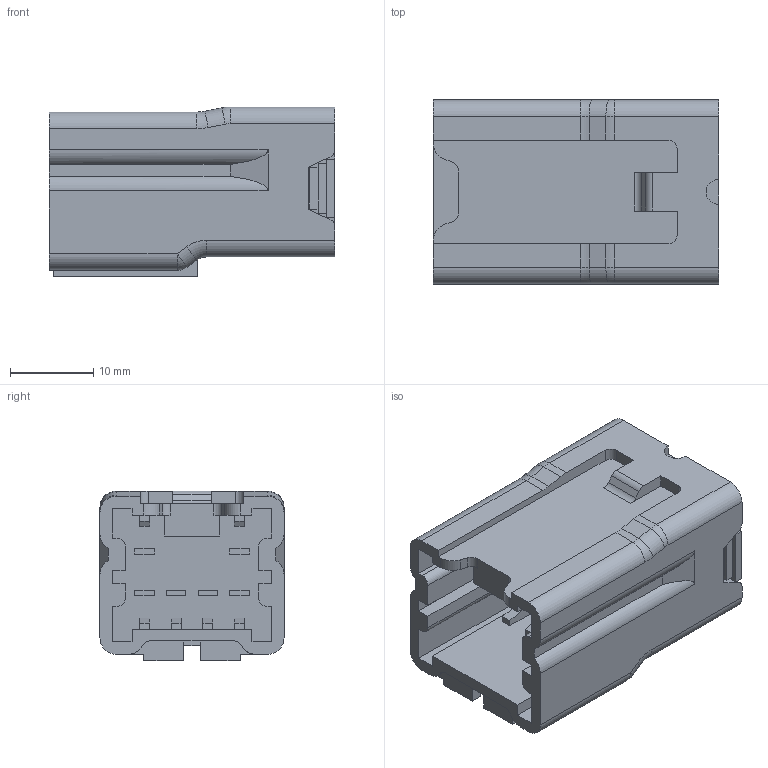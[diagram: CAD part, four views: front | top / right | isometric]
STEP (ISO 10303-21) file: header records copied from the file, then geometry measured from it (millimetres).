
FILE_DESCRIPTION(('CATIA V5 STEP Exchange'),'2;1');
FILE_NAME('N:\C-DAM_MyDesk\ENV\11093U\6098-1007.stp','2013-02-14T01:11:27+00:00',('none'),('none'),'CATIA Version 5 Release 20 SP 4 (IN-10)','CATIA V5 STEP AP203','none');
FILE_SCHEMA(('CONFIG_CONTROL_DESIGN'));
Length unit declared in the file: millimetre
Products named in the file (1): 6098-1007
Bounding box: 34.25 x 22.1 x 20.4 mm (x, y, z)
Volume: 9174.5 mm3; surface area: 5541.8 mm2
Topology: 1 solids, 1 shells, 273 faces, 758 edges, 498 vertices
Faces by surface type: plane 219, cylinder 43, torus 6, bspline 3, sphere 2
Entity records: 8282 total; most frequent: CARTESIAN_POINT 1613, ORIENTED_EDGE 1512, DIRECTION 1125, EDGE_CURVE 756, VECTOR 654, LINE 654, VERTEX_POINT 498, EDGE_LOOP 286
